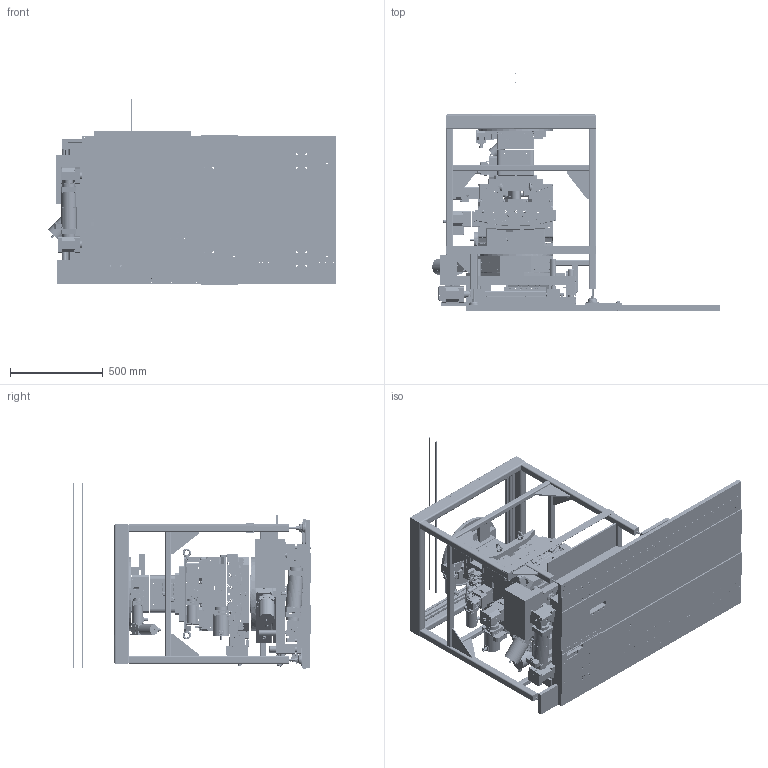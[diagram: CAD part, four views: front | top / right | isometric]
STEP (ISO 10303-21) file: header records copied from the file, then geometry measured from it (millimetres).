
FILE_DESCRIPTION (( 'STEP AP214' ), '1' );
FILE_NAME ('Assem-stage_and_frame.STEP', '2021-01-08T16:44:35', ( '' ), ( '' ), 'SwSTEP 2.0', 'SolidWorks 2016', '' );
FILE_SCHEMA (( 'AUTOMOTIVE_DESIGN' ));
Length unit declared in the file: millimetre
Products named in the file (28): right_box; stageI12-confB_Without motor path; Assem-stage_and_frame; STP112511-4; 1079685; FJKNS10-100; I12MGFRM_A100_00_Default<As Machined>; back_box; 1079683; STP112511-5; I12MGFRM_P001_00; STP112511-2; STP112511; Rexroth-40x40-long; 1050600_asm_Config.1; Rexroth-40x40-long2; _FJKNS10-100pad; STP112511-3; 1050601_ASM; 1050603; base_extension; I12-pinkbeam; STP112511_ASM; 1079684; hex bolt gradeab_iso_ISO 4014 - M10 x 45 x 26-N; STP112511-1; _FJKNS10-100screw; top_plate
Assembly tree (35 placements, depth 4):
  Assem-stage_and_frame
    1050600_asm_Config.1
      1050601_ASM
        1050603
      1079683
      STP112511_ASM
        STP112511
        STP112511-2
        STP112511-4
        STP112511-5
        STP112511-3
        STP112511-1
      1079684
      1079685  x2
      stageI12-confB_Without motor path
      top_plate
      back_box
      right_box
      base_extension
      I12-pinkbeam  x2
    I12MGFRM_A100_00_Default<As Machined>
    FJKNS10-100  x4
      _FJKNS10-100screw
      _FJKNS10-100pad
    Rexroth-40x40-long  x2
    Rexroth-40x40-long2  x2
    I12MGFRM_P001_00  x2
    hex bolt gradeab_iso_ISO 4014 - M10 x 45 x 26-N
Bounding box: 1549.01 x 1284 x 1006 mm (x, y, z)
Volume: 47465247 mm3; surface area: 15914542.2 mm2
Topology: 63 solids, 2231 shells, 10714 faces, 44288 edges, 35377 vertices
Faces by surface type: plane 5284, cylinder 3809, cone 1154, bspline 455, torus 12
Entity records: 718215 total; most frequent: CARTESIAN_POINT 386223, ORIENTED_EDGE 60281, DIRECTION 58673, EDGE_CURVE 43049, VERTEX_POINT 34594, VECTOR 21517, LINE 21517, AXIS2_PLACEMENT_3D 18578
